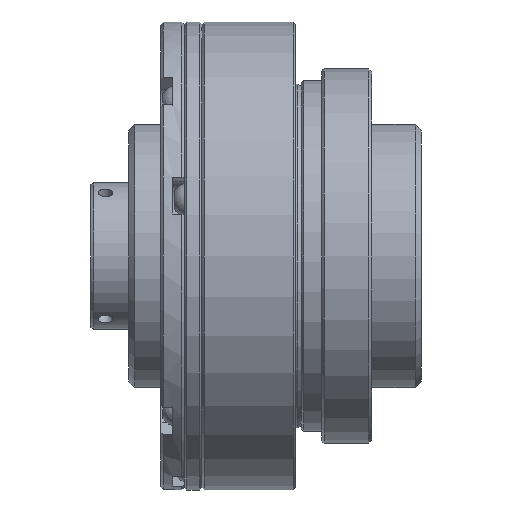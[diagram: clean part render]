
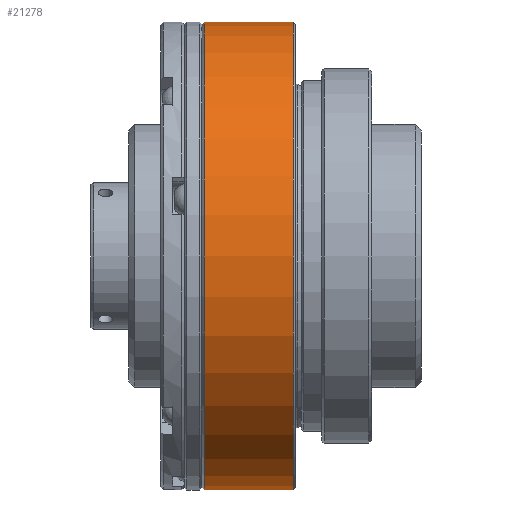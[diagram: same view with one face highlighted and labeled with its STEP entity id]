
A CAD part, front view. The second image highlights one B-rep face of the part: STEP entity #21278.
In plain terms, the highlighted cylindrical face has radius 40 mm (diameter 80 mm), a full revolution.
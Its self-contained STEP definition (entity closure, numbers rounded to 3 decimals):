
#3542 = VERTEX_POINT ( 'NONE', #16012 ) ;
#5128 = AXIS2_PLACEMENT_3D ( 'NONE', #6843, #29105, #16673 ) ;
#6179 = ORIENTED_EDGE ( 'NONE', *, *, #13817, .F. ) ;
#6244 = AXIS2_PLACEMENT_3D ( 'NONE', #26221, #20323, #36023 ) ;
#6777 = CIRCLE ( 'NONE', #38729, 40. ) ;
#6843 = CARTESIAN_POINT ( 'NONE',  ( 19.4, 0., 0. ) ) ;
#8372 = VERTEX_POINT ( 'NONE', #17604 ) ;
#13817 = EDGE_CURVE ( 'NONE', #3542, #3542, #31213, .T. ) ;
#16012 = CARTESIAN_POINT ( 'NONE',  ( 19.4, 0., 40. ) ) ;
#16673 = DIRECTION ( 'NONE',  ( 0., 0., 1. ) ) ;
#17604 = CARTESIAN_POINT ( 'NONE',  ( 34.6, 0., 40. ) ) ;
#17671 = FACE_OUTER_BOUND ( 'NONE', #19048, .T. ) ;
#19048 = EDGE_LOOP ( 'NONE', ( #32557 ) ) ;
#20323 = DIRECTION ( 'NONE',  ( -1., 0., 0. ) ) ;
#21278 = ADVANCED_FACE ( 'NONE', ( #38864, #17671 ), #33350, .T. ) ;
#26221 = CARTESIAN_POINT ( 'NONE',  ( 19., 0., 0. ) ) ;
#28727 = DIRECTION ( 'NONE',  ( -1., 0., 0. ) ) ;
#29105 = DIRECTION ( 'NONE',  ( -1., 0., 0. ) ) ;
#31213 = CIRCLE ( 'NONE', #5128, 40. ) ;
#32206 = DIRECTION ( 'NONE',  ( 0., 0., 1. ) ) ;
#32557 = ORIENTED_EDGE ( 'NONE', *, *, #38683, .T. ) ;
#33350 = CYLINDRICAL_SURFACE ( 'NONE', #6244, 40. ) ;
#35222 = EDGE_LOOP ( 'NONE', ( #6179 ) ) ;
#35260 = CARTESIAN_POINT ( 'NONE',  ( 34.6, 0., 0. ) ) ;
#36023 = DIRECTION ( 'NONE',  ( 0., 0., 1. ) ) ;
#38683 = EDGE_CURVE ( 'NONE', #8372, #8372, #6777, .T. ) ;
#38729 = AXIS2_PLACEMENT_3D ( 'NONE', #35260, #28727, #32206 ) ;
#38864 = FACE_OUTER_BOUND ( 'NONE', #35222, .T. ) ;
